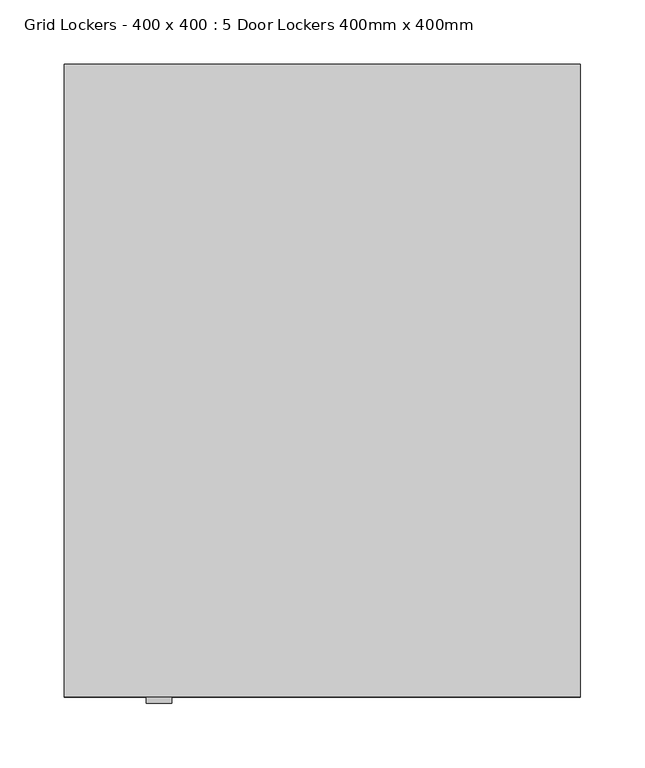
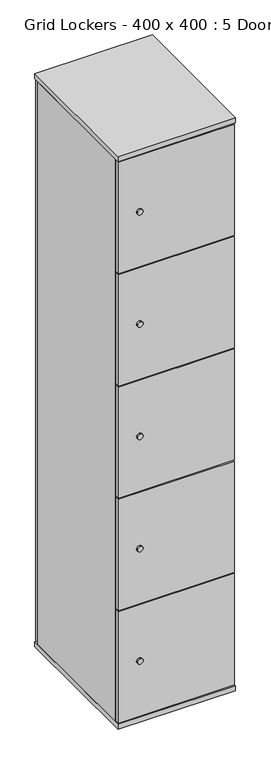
"""IFC4 building model written with IfcOpenShell, lengths in millimetres: furniture geometry, Grid Lockers - 400 x 400 : 5 Door Lockers 400mm x 400mm."""

from ifc_helpers import new_model, si_unit, point, frame, frame_2d, origin, origin_with_axes, place, context, project, spatial, polyline, circle_curve, trimmed, segment, composite_curve, outline, extrude, source, transform, mapped, element, save


def grid_lockers_400_x_400_5_door_lockers_400mm_x_400mm_98463abb(model_context):
    return source(origin(), model_context, "Body", "SweptSolid", [
        extrude(outline(composite_curve([segment(trimmed(circle_curve(frame_2d((1847.407691, 73.2979632)), 10.0), [point((1847.407691, 63.2979632))], [point((1847.407691, 83.2979632))], False, "CARTESIAN"), True, "CONTINUOUS"), segment(trimmed(circle_curve(frame_2d((1847.407691, 73.2979632)), 10.0), [point((1847.407691, 83.2979632))], [point((1847.407691, 63.2979632))], False, "CARTESIAN"), True, "CONTINUOUS")], self_intersect=False)), frame((0.0, -495.0, 0.0), z_axis=(0.0, 1.0, 0.0), x_axis=(0.0, 0.0, 1.0)), (0.0, 0.0, 1.0), 5.0),
        extrude(outline(polyline([(397.0, -490.0), (3.0, -490.0), (3.0, -472.0), (397.0, -472.0), (397.0, -490.0)])), frame((0.0, 0.0, 1647.7743616), z_axis=(0.0, 0.0, 1.0), x_axis=(1.0, 0.0, 0.0)), (0.0, 0.0, 1.0), 400.0),
        extrude(outline(composite_curve([segment(trimmed(circle_curve(frame_2d((1443.5863242, 73.2979632)), 10.0), [point((1443.5863242, 63.2979632))], [point((1443.5863242, 83.2979632))], False, "CARTESIAN"), True, "CONTINUOUS"), segment(trimmed(circle_curve(frame_2d((1443.5863242, 73.2979632)), 10.0), [point((1443.5863242, 83.2979632))], [point((1443.5863242, 63.2979632))], False, "CARTESIAN"), True, "CONTINUOUS")], self_intersect=False)), frame((0.0, -495.0, 0.0), z_axis=(0.0, 1.0, 0.0), x_axis=(0.0, 0.0, 1.0)), (0.0, 0.0, 1.0), 5.0),
        extrude(outline(polyline([(397.0, -490.0), (3.0, -490.0), (3.0, -472.0), (397.0, -472.0), (397.0, -490.0)])), frame((0.0, 0.0, 1243.8307712), z_axis=(0.0, 0.0, 1.0), x_axis=(1.0, 0.0, 0.0)), (0.0, 0.0, 1.0), 400.0),
        extrude(outline(composite_curve([segment(trimmed(circle_curve(frame_2d((1039.7649573, 73.2979632)), 10.0), [point((1039.7649573, 63.2979632))], [point((1039.7649573, 83.2979632))], False, "CARTESIAN"), True, "CONTINUOUS"), segment(trimmed(circle_curve(frame_2d((1039.7649573, 73.2979632)), 10.0), [point((1039.7649573, 83.2979632))], [point((1039.7649573, 63.2979632))], False, "CARTESIAN"), True, "CONTINUOUS")], self_intersect=False)), frame((0.0, -495.0, 0.0), z_axis=(0.0, 1.0, 0.0), x_axis=(0.0, 0.0, 1.0)), (0.0, 0.0, 1.0), 5.0),
        extrude(outline(polyline([(397.0, -490.0), (3.0, -490.0), (3.0, -472.0), (397.0, -472.0), (397.0, -490.0)])), frame((0.0, 0.0, 839.8871808), z_axis=(0.0, 0.0, 1.0), x_axis=(1.0, 0.0, 0.0)), (0.0, 0.0, 1.0), 400.0),
        extrude(outline(composite_curve([segment(trimmed(circle_curve(frame_2d((635.9435904, 73.2979632)), 10.0), [point((635.9435904, 63.2979632))], [point((635.9435904, 83.2979632))], False, "CARTESIAN"), True, "CONTINUOUS"), segment(trimmed(circle_curve(frame_2d((635.9435904, 73.2979632)), 10.0), [point((635.9435904, 83.2979632))], [point((635.9435904, 63.2979632))], False, "CARTESIAN"), True, "CONTINUOUS")], self_intersect=False)), frame((0.0, -495.0, 0.0), z_axis=(0.0, 1.0, 0.0), x_axis=(0.0, 0.0, 1.0)), (0.0, 0.0, 1.0), 5.0),
        extrude(outline(polyline([(397.0, -490.0), (3.0, -490.0), (3.0, -472.0), (397.0, -472.0), (397.0, -490.0)])), frame((0.0, 0.0, 435.9435904), z_axis=(0.0, 0.0, 1.0), x_axis=(1.0, 0.0, 0.0)), (0.0, 0.0, 1.0), 400.0),
        extrude(outline(composite_curve([segment(trimmed(circle_curve(frame_2d((350.0, -50.0)), 15.0), [point((335.0, -50.0))], [point((365.0, -50.0))], False, "CARTESIAN"), True, "CONTINUOUS"), segment(trimmed(circle_curve(frame_2d((350.0, -50.0)), 15.0), [point((365.0, -50.0))], [point((335.0, -50.0))], False, "CARTESIAN"), True, "CONTINUOUS")], self_intersect=False)), origin_with_axes(), (0.0, 0.0, 1.0), 10.0),
        extrude(outline(composite_curve([segment(trimmed(circle_curve(frame_2d((50.0, -50.0)), 15.0), [point((35.0, -50.0))], [point((65.0, -50.0))], False, "CARTESIAN"), True, "CONTINUOUS"), segment(trimmed(circle_curve(frame_2d((50.0, -50.0)), 15.0), [point((65.0, -50.0))], [point((35.0, -50.0))], False, "CARTESIAN"), True, "CONTINUOUS")], self_intersect=False)), origin_with_axes(), (0.0, 0.0, 1.0), 10.0),
        extrude(outline(composite_curve([segment(trimmed(circle_curve(frame_2d((50.0, -440.0)), 15.0), [point((35.0, -440.0))], [point((65.0, -440.0))], False, "CARTESIAN"), True, "CONTINUOUS"), segment(trimmed(circle_curve(frame_2d((50.0, -440.0)), 15.0), [point((65.0, -440.0))], [point((35.0, -440.0))], False, "CARTESIAN"), True, "CONTINUOUS")], self_intersect=False)), origin_with_axes(), (0.0, 0.0, 1.0), 10.0),
        extrude(outline(composite_curve([segment(trimmed(circle_curve(frame_2d((350.0, -440.0)), 15.0), [point((335.0, -440.0))], [point((365.0, -440.0))], False, "CARTESIAN"), True, "CONTINUOUS"), segment(trimmed(circle_curve(frame_2d((350.0, -440.0)), 15.0), [point((365.0, -440.0))], [point((335.0, -440.0))], False, "CARTESIAN"), True, "CONTINUOUS")], self_intersect=False)), origin_with_axes(), (0.0, 0.0, 1.0), 10.0),
        extrude(outline(polyline([(400.0, -490.0), (0.0, -490.0), (0.0, 0.0), (400.0, 0.0), (400.0, -490.0)])), frame((0.0, 0.0, 2052.0), z_axis=(0.0, 0.0, 1.0), x_axis=(1.0, 0.0, 0.0)), (0.0, 0.0, 1.0), 18.0),
        extrude(outline(polyline([(400.0, -490.0), (0.0, -490.0), (0.0, 0.0), (400.0, 0.0), (400.0, -490.0)])), frame((0.0, 0.0, 10.0), z_axis=(0.0, 0.0, 1.0), x_axis=(1.0, 0.0, 0.0)), (0.0, 0.0, 1.0), 18.0),
        extrude(outline(composite_curve([segment(trimmed(circle_curve(frame_2d((232.1222235, 73.2979632)), 10.0), [point((232.1222235, 63.2979632))], [point((232.1222235, 83.2979632))], False, "CARTESIAN"), True, "CONTINUOUS"), segment(trimmed(circle_curve(frame_2d((232.1222235, 73.2979632)), 10.0), [point((232.1222235, 83.2979632))], [point((232.1222235, 63.2979632))], False, "CARTESIAN"), True, "CONTINUOUS")], self_intersect=False)), frame((0.0, -495.0, 0.0), z_axis=(0.0, 1.0, 0.0), x_axis=(0.0, 0.0, 1.0)), (0.0, 0.0, 1.0), 5.0),
        extrude(outline(polyline([(397.0, -490.0), (3.0, -490.0), (3.0, -472.0), (397.0, -472.0), (397.0, -490.0)])), frame((0.0, 0.0, 32.0), z_axis=(0.0, 0.0, 1.0), x_axis=(1.0, 0.0, 0.0)), (0.0, 0.0, 1.0), 400.0),
        extrude(outline(polyline([(400.0, -18.0), (400.0, -472.0), (0.0, -472.0), (0.0, -18.0), (400.0, -18.0)])), frame((0.0, 0.0, 28.0), z_axis=(0.0, 0.0, 1.0), x_axis=(1.0, 0.0, 0.0)), (0.0, 0.0, 1.0), 2024.0),
        extrude(outline(polyline([(397.0, 0.0), (397.0, -18.0), (3.0, -18.0), (3.0, 0.0), (397.0, 0.0)])), frame((0.0, 0.0, 32.0), z_axis=(0.0, 0.0, 1.0), x_axis=(1.0, 0.0, 0.0)), (0.0, 0.0, 1.0), 2020.0),
    ])


if __name__ == "__main__":
    model = new_model("IFC4")
    model_context = context("Model", 3, world=origin())
    ifc_project = project(units=[si_unit("LENGTHUNIT", "METRE", prefix="MILLI")], contexts=[model_context])
    site = spatial("IfcSite", under=ifc_project)
    building = spatial("IfcBuilding", under=site)
    placement = place(None, origin())
    grid_lockers_400_x_400_5_door_lockers_400mm_x_400mm_shape = grid_lockers_400_x_400_5_door_lockers_400mm_x_400mm_98463abb(model_context)
    element("IfcFurniture", 1, ObjectType="Grid Lockers - 400 x 400 : 5 Door Lockers 400mm x 400mm", at=placement, inside=building, context=model_context, shape_type="MappedRepresentation", body=[
        mapped(grid_lockers_400_x_400_5_door_lockers_400mm_x_400mm_shape, transform((0.0, 0.0, 0.0), x_axis=(1.0, 0.0, 0.0), y_axis=(0.0, 1.0, 0.0), z_axis=(0.0, 0.0, 1.0))),
    ])
    save(model, "model.ifc")
